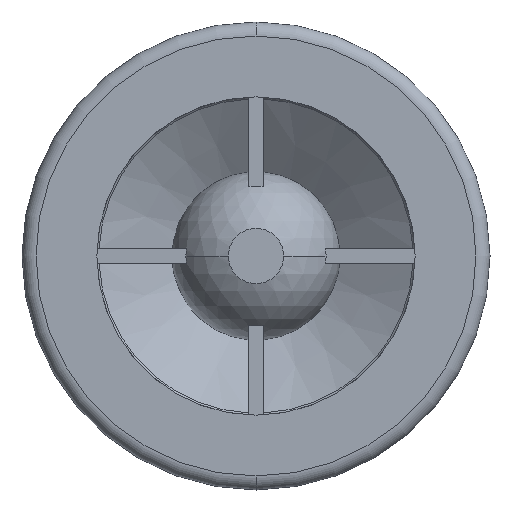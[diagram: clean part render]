
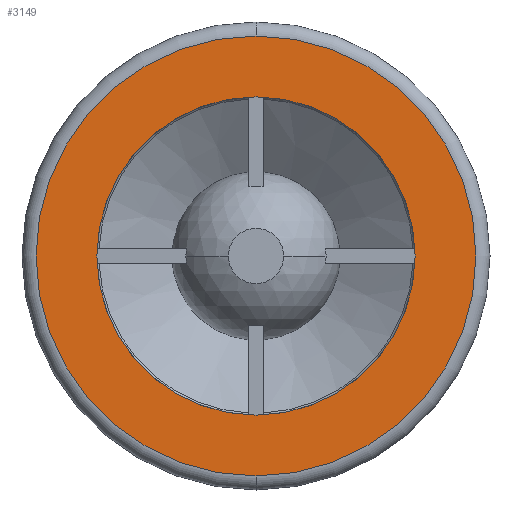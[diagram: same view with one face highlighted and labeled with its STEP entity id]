
A CAD part, front view. The second image highlights one B-rep face of the part: STEP entity #3149.
In plain terms, the highlighted planar face has unit normal (0, -1, 0).
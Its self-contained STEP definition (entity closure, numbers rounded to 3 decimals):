
#2841 = ORIENTED_EDGE ( 'NONE', *, *, #3075, .F. ) ;
#2842 = ORIENTED_EDGE ( 'NONE', *, *, #3134, .F. ) ;
#2843 = EDGE_LOOP ( 'NONE', ( #2842, #2841 ) ) ;
#2844 = ORIENTED_EDGE ( 'NONE', *, *, #2920, .T. ) ;
#2847 = EDGE_CURVE ( 'NONE', #2922, #2921, #5141, .T. ) ;
#2920 = EDGE_CURVE ( 'NONE', #2921, #2922, #5242, .T. ) ;
#2921 = VERTEX_POINT ( 'NONE', #5300 ) ;
#2922 = VERTEX_POINT ( 'NONE', #5299 ) ;
#3073 = VERTEX_POINT ( 'NONE', #5554 ) ;
#3075 = EDGE_CURVE ( 'NONE', #3073, #3076, #5553, .T. ) ;
#3076 = VERTEX_POINT ( 'NONE', #5609 ) ;
#3134 = EDGE_CURVE ( 'NONE', #3076, #3073, #5677, .T. ) ;
#3149 = ADVANCED_FACE ( 'NONE', ( #5710, #5709 ), #5708, .F. ) ;
#3150 = EDGE_LOOP ( 'NONE', ( #3151, #2844 ) ) ;
#3151 = ORIENTED_EDGE ( 'NONE', *, *, #2847, .T. ) ;
#5134 = DIRECTION ( 'NONE',  ( 0., 0., 1. ) ) ;
#5135 = DIRECTION ( 'NONE',  ( 0., -1., 0. ) ) ;
#5136 = CARTESIAN_POINT ( 'NONE',  ( 0., 0., 0. ) ) ;
#5137 = AXIS2_PLACEMENT_3D ( 'NONE', #5136, #5135, #5134 ) ;
#5141 = CIRCLE ( 'NONE', #5137, 23.5 ) ;
#5242 = CIRCLE ( 'NONE', #5304, 23.5 ) ;
#5299 = CARTESIAN_POINT ( 'NONE',  ( 0., 0., 23.5 ) ) ;
#5300 = CARTESIAN_POINT ( 'NONE',  ( 0., 0., -23.5 ) ) ;
#5301 = DIRECTION ( 'NONE',  ( 0., 0., 1. ) ) ;
#5302 = DIRECTION ( 'NONE',  ( 0., -1., 0. ) ) ;
#5303 = CARTESIAN_POINT ( 'NONE',  ( 0., 0., 0. ) ) ;
#5304 = AXIS2_PLACEMENT_3D ( 'NONE', #5303, #5302, #5301 ) ;
#5551 = CARTESIAN_POINT ( 'NONE',  ( 0., 0., 0. ) ) ;
#5552 = AXIS2_PLACEMENT_3D ( 'NONE', #5551, #5611, #5610 ) ;
#5553 = CIRCLE ( 'NONE', #5552, 17. ) ;
#5554 = CARTESIAN_POINT ( 'NONE',  ( 0., 0., 17. ) ) ;
#5609 = CARTESIAN_POINT ( 'NONE',  ( 0., 0., -17. ) ) ;
#5610 = DIRECTION ( 'NONE',  ( 0., 0., -1. ) ) ;
#5611 = DIRECTION ( 'NONE',  ( 0., -1., 0. ) ) ;
#5673 = DIRECTION ( 'NONE',  ( 0., 0., -1. ) ) ;
#5674 = DIRECTION ( 'NONE',  ( 0., -1., 0. ) ) ;
#5675 = CARTESIAN_POINT ( 'NONE',  ( 0., 0., 0. ) ) ;
#5676 = AXIS2_PLACEMENT_3D ( 'NONE', #5675, #5674, #5673 ) ;
#5677 = CIRCLE ( 'NONE', #5676, 17. ) ;
#5703 = DIRECTION ( 'NONE',  ( 0., 0., 1. ) ) ;
#5704 = DIRECTION ( 'NONE',  ( 0., 1., 0. ) ) ;
#5705 = CARTESIAN_POINT ( 'NONE',  ( -17., 0., 0. ) ) ;
#5707 = AXIS2_PLACEMENT_3D ( 'NONE', #5705, #5704, #5703 ) ;
#5708 = PLANE ( 'NONE',  #5707 ) ;
#5709 = FACE_BOUND ( 'NONE', #2843, .T. ) ;
#5710 = FACE_OUTER_BOUND ( 'NONE', #3150, .T. ) ;
